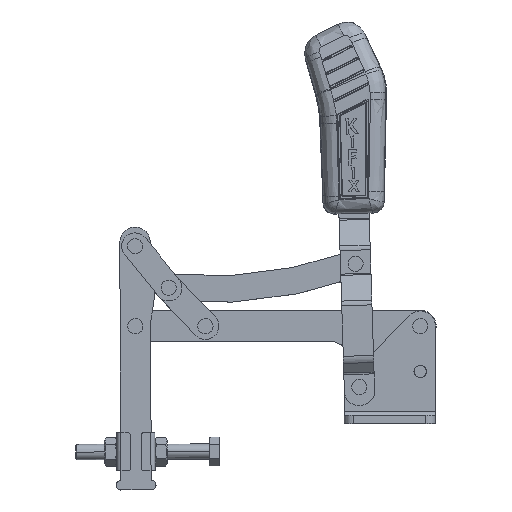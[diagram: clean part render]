
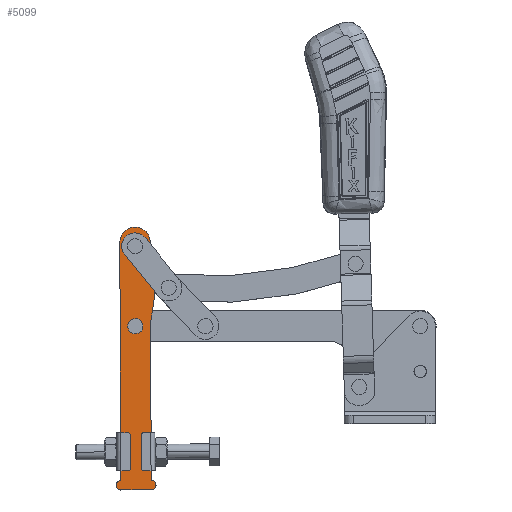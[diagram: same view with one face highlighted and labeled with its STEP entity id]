
A CAD part, top view. The second image highlights one B-rep face of the part: STEP entity #5099.
In plain terms, the highlighted planar face has unit normal (0, 0, 1) as drawn and (0, 1, 0) by its records, which use the part's own axes.
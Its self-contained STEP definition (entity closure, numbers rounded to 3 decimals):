
#141 = CARTESIAN_POINT ( 'NONE',  ( 0., 0., -62.2 ) ) ;
#326 = DIRECTION ( 'NONE',  ( 0., 1., 0. ) ) ;
#430 = DIRECTION ( 'NONE',  ( 0., 0., 1. ) ) ;
#523 = CARTESIAN_POINT ( 'NONE',  ( 0., 0., -17. ) ) ;
#704 = VECTOR ( 'NONE', #23621, 1000. ) ;
#946 = AXIS2_PLACEMENT_3D ( 'NONE', #18738, #20760, #6642 ) ;
#1520 = AXIS2_PLACEMENT_3D ( 'NONE', #523, #14625, #2573 ) ;
#1552 = VERTEX_POINT ( 'NONE', #25173 ) ;
#1701 = CARTESIAN_POINT ( 'NONE',  ( 0., 0., -59. ) ) ;
#1747 = DIRECTION ( 'NONE',  ( 0., 1., 0. ) ) ;
#2248 = EDGE_LOOP ( 'NONE', ( #6538, #3254 ) ) ;
#2573 = DIRECTION ( 'NONE',  ( 0., 0., 1. ) ) ;
#2991 = AXIS2_PLACEMENT_3D ( 'NONE', #12423, #326, #14432 ) ;
#3254 = ORIENTED_EDGE ( 'NONE', *, *, #13988, .F. ) ;
#3730 = DIRECTION ( 'NONE',  ( 0., 0., 1. ) ) ;
#3838 = CARTESIAN_POINT ( 'NONE',  ( -8., 0., 69. ) ) ;
#4310 = ORIENTED_EDGE ( 'NONE', *, *, #7729, .T. ) ;
#4526 = PLANE ( 'NONE',  #946 ) ;
#4962 = CARTESIAN_POINT ( 'NONE',  ( 7.746, 0., -62.999 ) ) ;
#5099 = ADVANCED_FACE ( 'NONE', ( #16169, #6713, #22850 ), #4526, .F. ) ;
#5813 = DIRECTION ( 'NONE',  ( 0., 1., 0. ) ) ;
#5927 = VERTEX_POINT ( 'NONE', #3838 ) ;
#6275 = VERTEX_POINT ( 'NONE', #10159 ) ;
#6538 = ORIENTED_EDGE ( 'NONE', *, *, #9801, .F. ) ;
#6642 = DIRECTION ( 'NONE',  ( 0., 0., -1. ) ) ;
#6713 = FACE_BOUND ( 'NONE', #2248, .T. ) ;
#6986 = EDGE_CURVE ( 'NONE', #19891, #23794, #12077, .T. ) ;
#7269 = DIRECTION ( 'NONE',  ( 1., 0., 0. ) ) ;
#7429 = CARTESIAN_POINT ( 'NONE',  ( -8., 0., 69. ) ) ;
#7729 = EDGE_CURVE ( 'NONE', #23794, #5927, #23430, .T. ) ;
#8022 = CARTESIAN_POINT ( 'NONE',  ( -8., 0., 66.5 ) ) ;
#8364 = CARTESIAN_POINT ( 'NONE',  ( 0., 0., -17. ) ) ;
#8648 = CARTESIAN_POINT ( 'NONE',  ( 0., 0., -55.8 ) ) ;
#8724 = LINE ( 'NONE', #24755, #10011 ) ;
#9115 = ORIENTED_EDGE ( 'NONE', *, *, #10184, .T. ) ;
#9303 = CARTESIAN_POINT ( 'NONE',  ( 8., 0., 69. ) ) ;
#9501 = AXIS2_PLACEMENT_3D ( 'NONE', #1701, #15790, #3730 ) ;
#9801 = EDGE_CURVE ( 'NONE', #12869, #26141, #14408, .T. ) ;
#10011 = VECTOR ( 'NONE', #12676, 1000. ) ;
#10061 = DIRECTION ( 'NONE',  ( 0., 0., 1. ) ) ;
#10159 = CARTESIAN_POINT ( 'NONE',  ( 8., 0., -19.038 ) ) ;
#10184 = EDGE_CURVE ( 'NONE', #1552, #6275, #8724, .T. ) ;
#10292 = VERTEX_POINT ( 'NONE', #4962 ) ;
#10419 = DIRECTION ( 'NONE',  ( 0., 0., 1. ) ) ;
#11807 = EDGE_CURVE ( 'NONE', #17763, #1552, #17883, .T. ) ;
#12077 = LINE ( 'NONE', #7429, #704 ) ;
#12200 = EDGE_CURVE ( 'NONE', #25428, #19369, #18178, .T. ) ;
#12423 = CARTESIAN_POINT ( 'NONE',  ( 0., 0., -61. ) ) ;
#12533 = DIRECTION ( 'NONE',  ( 0., 1., 0. ) ) ;
#12676 = DIRECTION ( 'NONE',  ( 0., 0., -1. ) ) ;
#12741 = AXIS2_PLACEMENT_3D ( 'NONE', #13822, #1747, #15837 ) ;
#12869 = VERTEX_POINT ( 'NONE', #14752 ) ;
#13326 = AXIS2_PLACEMENT_3D ( 'NONE', #8364, #22508, #10419 ) ;
#13701 = VECTOR ( 'NONE', #7269, 1000. ) ;
#13822 = CARTESIAN_POINT ( 'NONE',  ( 0., 0., -59. ) ) ;
#13988 = EDGE_CURVE ( 'NONE', #26141, #12869, #19062, .T. ) ;
#14374 = AXIS2_PLACEMENT_3D ( 'NONE', #17937, #5813, #19949 ) ;
#14408 = CIRCLE ( 'NONE', #1520, 3.2 ) ;
#14432 = DIRECTION ( 'NONE',  ( 0., 0., -1. ) ) ;
#14506 = ORIENTED_EDGE ( 'NONE', *, *, #21728, .T. ) ;
#14625 = DIRECTION ( 'NONE',  ( 0., 1., 0. ) ) ;
#14752 = CARTESIAN_POINT ( 'NONE',  ( 0., 0., -13.8 ) ) ;
#14963 = CARTESIAN_POINT ( 'NONE',  ( 8., 0., 69. ) ) ;
#15170 = EDGE_CURVE ( 'NONE', #6275, #10292, #18859, .T. ) ;
#15790 = DIRECTION ( 'NONE',  ( 0., 1., 0. ) ) ;
#15837 = DIRECTION ( 'NONE',  ( 0., 0., 1. ) ) ;
#16169 = FACE_OUTER_BOUND ( 'NONE', #24440, .T. ) ;
#17169 = CARTESIAN_POINT ( 'NONE',  ( 0., 0., -20.2 ) ) ;
#17763 = VERTEX_POINT ( 'NONE', #14963 ) ;
#17883 = CIRCLE ( 'NONE', #24563, 2.5 ) ;
#17937 = CARTESIAN_POINT ( 'NONE',  ( -79.4, 0., -40.515 ) ) ;
#18178 = CIRCLE ( 'NONE', #12741, 3.2 ) ;
#18738 = CARTESIAN_POINT ( 'NONE',  ( 0., 0., 0. ) ) ;
#18859 = CIRCLE ( 'NONE', #14374, 90. ) ;
#19062 = CIRCLE ( 'NONE', #13326, 3.2 ) ;
#19369 = VERTEX_POINT ( 'NONE', #141 ) ;
#19392 = EDGE_CURVE ( 'NONE', #10292, #19891, #23149, .T. ) ;
#19891 = VERTEX_POINT ( 'NONE', #24846 ) ;
#19949 = DIRECTION ( 'NONE',  ( 0., 0., -1. ) ) ;
#20206 = ORIENTED_EDGE ( 'NONE', *, *, #12200, .F. ) ;
#20413 = AXIS2_PLACEMENT_3D ( 'NONE', #8022, #22158, #10061 ) ;
#20760 = DIRECTION ( 'NONE',  ( 0., -1., 0. ) ) ;
#20972 = ORIENTED_EDGE ( 'NONE', *, *, #15170, .T. ) ;
#21728 = EDGE_CURVE ( 'NONE', #5927, #17763, #24442, .T. ) ;
#22158 = DIRECTION ( 'NONE',  ( 0., 1., 0. ) ) ;
#22206 = ORIENTED_EDGE ( 'NONE', *, *, #11807, .T. ) ;
#22435 = EDGE_LOOP ( 'NONE', ( #20206, #23313 ) ) ;
#22508 = DIRECTION ( 'NONE',  ( 0., 1., 0. ) ) ;
#22850 = FACE_BOUND ( 'NONE', #22435, .T. ) ;
#23094 = CIRCLE ( 'NONE', #9501, 3.2 ) ;
#23149 = CIRCLE ( 'NONE', #2991, 8. ) ;
#23313 = ORIENTED_EDGE ( 'NONE', *, *, #24942, .F. ) ;
#23430 = CIRCLE ( 'NONE', #20413, 2.5 ) ;
#23621 = DIRECTION ( 'NONE',  ( 0., 0., 1. ) ) ;
#23794 = VERTEX_POINT ( 'NONE', #25403 ) ;
#24440 = EDGE_LOOP ( 'NONE', ( #14506, #22206, #9115, #20972, #25639, #25600, #4310 ) ) ;
#24442 = LINE ( 'NONE', #9303, #13701 ) ;
#24563 = AXIS2_PLACEMENT_3D ( 'NONE', #24608, #12533, #430 ) ;
#24608 = CARTESIAN_POINT ( 'NONE',  ( 8., 0., 66.5 ) ) ;
#24755 = CARTESIAN_POINT ( 'NONE',  ( 8., 0., -69. ) ) ;
#24846 = CARTESIAN_POINT ( 'NONE',  ( -8., 0., -61. ) ) ;
#24942 = EDGE_CURVE ( 'NONE', #19369, #25428, #23094, .T. ) ;
#25173 = CARTESIAN_POINT ( 'NONE',  ( 8., 0., 64. ) ) ;
#25403 = CARTESIAN_POINT ( 'NONE',  ( -8., 0., 64. ) ) ;
#25428 = VERTEX_POINT ( 'NONE', #8648 ) ;
#25600 = ORIENTED_EDGE ( 'NONE', *, *, #6986, .T. ) ;
#25639 = ORIENTED_EDGE ( 'NONE', *, *, #19392, .T. ) ;
#26141 = VERTEX_POINT ( 'NONE', #17169 ) ;
